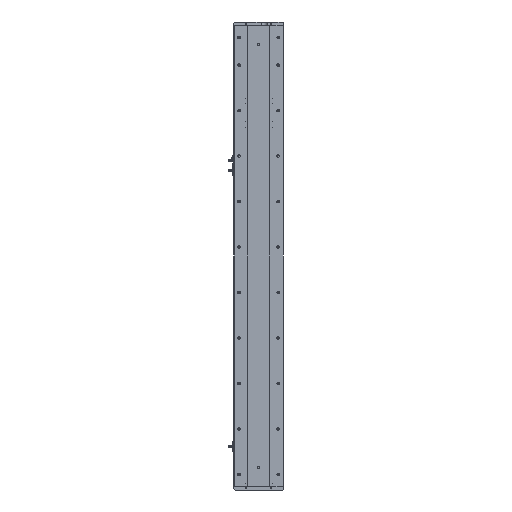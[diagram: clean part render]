
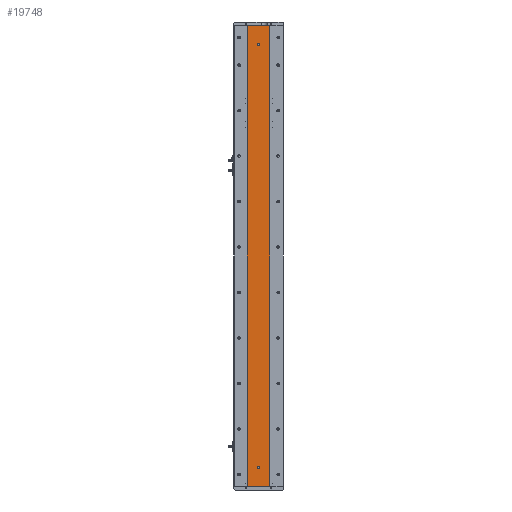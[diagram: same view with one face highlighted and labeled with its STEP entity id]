
A CAD part, left-side view. The second image highlights one B-rep face of the part: STEP entity #19748.
In plain terms, the highlighted planar face has unit normal (-1, 0, 0).
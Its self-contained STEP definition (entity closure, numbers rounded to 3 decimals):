
#718 = CARTESIAN_POINT ( 'NONE',  ( -24.994, 0., 1165. ) ) ;
#828 = DIRECTION ( 'NONE',  ( 0., 0., 1. ) ) ;
#1117 = CIRCLE ( 'NONE', #23756, 3. ) ;
#1933 = VECTOR ( 'NONE', #13211, 1000. ) ;
#3322 = DIRECTION ( 'NONE',  ( 0., 0., -1. ) ) ;
#3764 = DIRECTION ( 'NONE',  ( 0., 0., 1. ) ) ;
#4322 = ORIENTED_EDGE ( 'NONE', *, *, #10970, .T. ) ;
#5491 = CARTESIAN_POINT ( 'NONE',  ( -24.994, 0., 1168. ) ) ;
#5718 = EDGE_LOOP ( 'NONE', ( #29142, #6784 ) ) ;
#6152 = VERTEX_POINT ( 'NONE', #29306 ) ;
#6369 = DIRECTION ( 'NONE',  ( -1., 0., 0. ) ) ;
#6784 = ORIENTED_EDGE ( 'NONE', *, *, #13495, .F. ) ;
#7299 = CARTESIAN_POINT ( 'NONE',  ( -24.994, 29.785, 0. ) ) ;
#7365 = VERTEX_POINT ( 'NONE', #33233 ) ;
#7391 = VECTOR ( 'NONE', #3322, 1000. ) ;
#7724 = VERTEX_POINT ( 'NONE', #34885 ) ;
#7907 = CARTESIAN_POINT ( 'NONE',  ( -24.994, 29.785, 1215. ) ) ;
#8347 = VERTEX_POINT ( 'NONE', #5491 ) ;
#8502 = CARTESIAN_POINT ( 'NONE',  ( -24.994, 0., 47. ) ) ;
#9982 = FACE_OUTER_BOUND ( 'NONE', #36975, .T. ) ;
#10533 = ORIENTED_EDGE ( 'NONE', *, *, #19581, .F. ) ;
#10970 = EDGE_CURVE ( 'NONE', #18648, #7724, #17717, .T. ) ;
#11583 = CARTESIAN_POINT ( 'NONE',  ( -24.994, 29.785, 1215. ) ) ;
#11771 = EDGE_CURVE ( 'NONE', #8347, #21850, #12494, .T. ) ;
#12256 = VECTOR ( 'NONE', #28653, 1000. ) ;
#12442 = CARTESIAN_POINT ( 'NONE',  ( -24.994, 0., 53. ) ) ;
#12468 = CARTESIAN_POINT ( 'NONE',  ( -24.994, 29.785, 1215. ) ) ;
#12487 = AXIS2_PLACEMENT_3D ( 'NONE', #24227, #6369, #27225 ) ;
#12494 = CIRCLE ( 'NONE', #12487, 3. ) ;
#13211 = DIRECTION ( 'NONE',  ( 0., -1., 0. ) ) ;
#13495 = EDGE_CURVE ( 'NONE', #21850, #8347, #1117, .T. ) ;
#14557 = DIRECTION ( 'NONE',  ( -1., 0., 0. ) ) ;
#14892 = EDGE_CURVE ( 'NONE', #16874, #25521, #35682, .T. ) ;
#15335 = AXIS2_PLACEMENT_3D ( 'NONE', #32337, #14557, #35358 ) ;
#15345 = LINE ( 'NONE', #18238, #7391 ) ;
#15464 = DIRECTION ( 'NONE',  ( 0., 0., -1. ) ) ;
#16218 = EDGE_CURVE ( 'NONE', #7365, #6152, #15345, .T. ) ;
#16874 = VERTEX_POINT ( 'NONE', #12442 ) ;
#17717 = LINE ( 'NONE', #11583, #33548 ) ;
#17849 = DIRECTION ( 'NONE',  ( 0., 0., -1. ) ) ;
#18238 = CARTESIAN_POINT ( 'NONE',  ( -24.994, -29.785, 1215. ) ) ;
#18648 = VERTEX_POINT ( 'NONE', #30614 ) ;
#18780 = EDGE_CURVE ( 'NONE', #7724, #6152, #32718, .T. ) ;
#18799 = DIRECTION ( 'NONE',  ( -1., 0., 0. ) ) ;
#18934 = EDGE_CURVE ( 'NONE', #18648, #7365, #27149, .T. ) ;
#19581 = EDGE_CURVE ( 'NONE', #25521, #16874, #20330, .T. ) ;
#19748 = ADVANCED_FACE ( 'NONE', ( #33771, #26769, #9982 ), #36013, .F. ) ;
#19866 = AXIS2_PLACEMENT_3D ( 'NONE', #36592, #18799, #828 ) ;
#20330 = CIRCLE ( 'NONE', #15335, 3. ) ;
#21674 = DIRECTION ( 'NONE',  ( -1., 0., 0. ) ) ;
#21850 = VERTEX_POINT ( 'NONE', #26349 ) ;
#23756 = AXIS2_PLACEMENT_3D ( 'NONE', #718, #21674, #3764 ) ;
#24227 = CARTESIAN_POINT ( 'NONE',  ( -24.994, 0., 1165. ) ) ;
#24808 = EDGE_LOOP ( 'NONE', ( #28615, #10533 ) ) ;
#25521 = VERTEX_POINT ( 'NONE', #8502 ) ;
#26349 = CARTESIAN_POINT ( 'NONE',  ( -24.994, 0., 1162. ) ) ;
#26769 = FACE_BOUND ( 'NONE', #24808, .T. ) ;
#27094 = ORIENTED_EDGE ( 'NONE', *, *, #18780, .T. ) ;
#27149 = LINE ( 'NONE', #7907, #12256 ) ;
#27225 = DIRECTION ( 'NONE',  ( 0., 0., 1. ) ) ;
#28615 = ORIENTED_EDGE ( 'NONE', *, *, #14892, .F. ) ;
#28653 = DIRECTION ( 'NONE',  ( 0., -1., 0. ) ) ;
#29142 = ORIENTED_EDGE ( 'NONE', *, *, #11771, .F. ) ;
#29306 = CARTESIAN_POINT ( 'NONE',  ( -24.994, -29.785, 0. ) ) ;
#30614 = CARTESIAN_POINT ( 'NONE',  ( -24.994, 29.785, 1215. ) ) ;
#32337 = CARTESIAN_POINT ( 'NONE',  ( -24.994, 0., 50. ) ) ;
#32513 = AXIS2_PLACEMENT_3D ( 'NONE', #12468, #33277, #15464 ) ;
#32718 = LINE ( 'NONE', #7299, #1933 ) ;
#33217 = ORIENTED_EDGE ( 'NONE', *, *, #18934, .F. ) ;
#33233 = CARTESIAN_POINT ( 'NONE',  ( -24.994, -29.785, 1215. ) ) ;
#33277 = DIRECTION ( 'NONE',  ( 1., 0., 0. ) ) ;
#33548 = VECTOR ( 'NONE', #17849, 1000. ) ;
#33639 = ORIENTED_EDGE ( 'NONE', *, *, #16218, .F. ) ;
#33771 = FACE_BOUND ( 'NONE', #5718, .T. ) ;
#34885 = CARTESIAN_POINT ( 'NONE',  ( -24.994, 29.785, 0. ) ) ;
#35358 = DIRECTION ( 'NONE',  ( 0., 0., 1. ) ) ;
#35682 = CIRCLE ( 'NONE', #19866, 3. ) ;
#36013 = PLANE ( 'NONE',  #32513 ) ;
#36592 = CARTESIAN_POINT ( 'NONE',  ( -24.994, 0., 50. ) ) ;
#36975 = EDGE_LOOP ( 'NONE', ( #27094, #33639, #33217, #4322 ) ) ;
